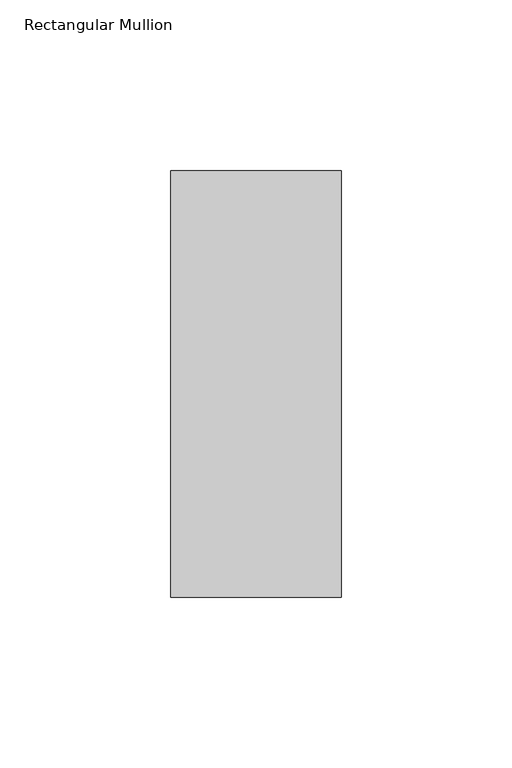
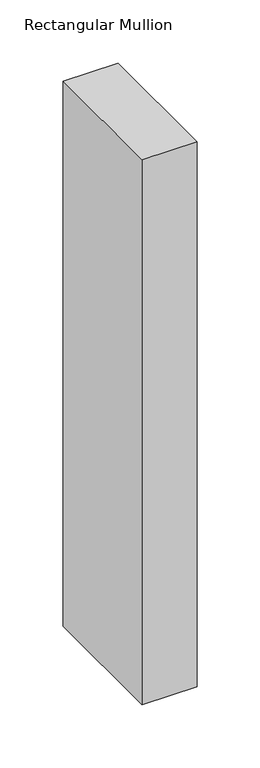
"""IFC4 building model written with IfcOpenShell, lengths in millimetres: member geometry, Rectangular Mullion : DucoSun Cubic Design profile 50x125 for louvre 500."""

from ifc_helpers import new_model, si_unit, frame, origin, place, context, project, spatial, polyline, outline, extrude, source, transform, mapped, element, save


def rectangular_mullion_5ed672e4(model_context):
    return source(origin(), model_context, "Body", "SweptSolid", [
        extrude(outline(polyline([(0.0, 187.5), (-50.0, 187.5), (-50.0, 312.5), (0.0, 312.5), (0.0, 187.5)])), frame((0.0, 0.0, -525.5000002), z_axis=(0.0, 0.0, 1.0), x_axis=(1.0, 0.0, 0.0)), (0.0, 0.0, 1.0), 525.5000002),
    ])


if __name__ == "__main__":
    model = new_model("IFC4")
    model_context = context("Model", 3, world=origin())
    ifc_project = project(units=[si_unit("LENGTHUNIT", "METRE", prefix="MILLI")], contexts=[model_context])
    site = spatial("IfcSite", under=ifc_project)
    building = spatial("IfcBuilding", under=site)
    placement = place(None, origin())
    rectangular_mullion_shape = rectangular_mullion_5ed672e4(model_context)
    element("IfcMember", 1, ObjectType="Rectangular Mullion : DucoSun Cubic Design profile 50x125 for louvre 500", at=placement, inside=building, context=model_context, shape_type="MappedRepresentation", body=[
        mapped(rectangular_mullion_shape, transform((0.0, 0.0, 0.0), x_axis=(1.0, 0.0, 0.0), y_axis=(0.0, 1.0, 0.0), z_axis=(0.0, 0.0, 1.0))),
    ])
    save(model, "model.ifc")
